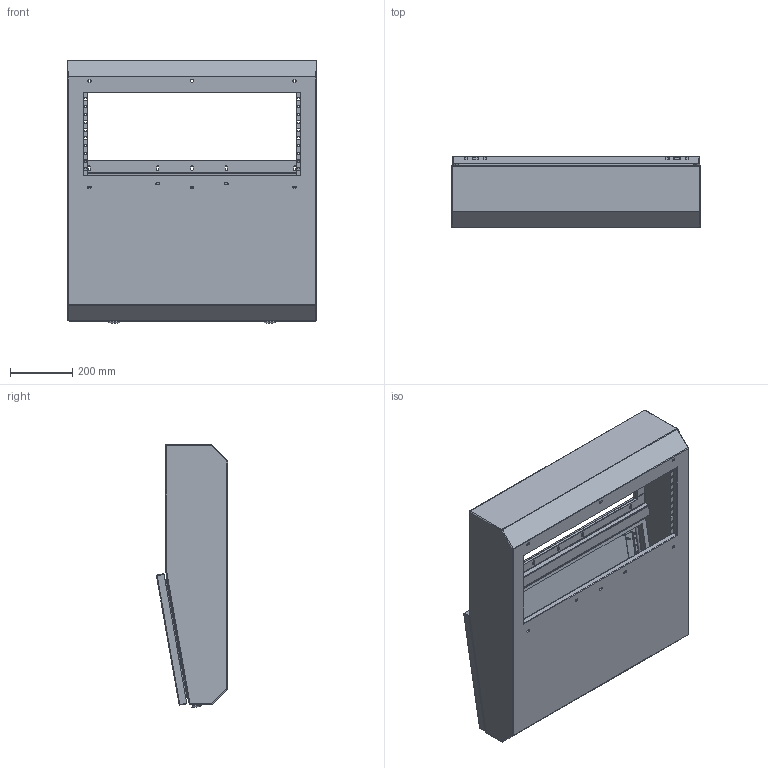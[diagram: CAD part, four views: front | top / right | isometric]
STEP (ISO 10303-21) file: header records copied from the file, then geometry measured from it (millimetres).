
FILE_DESCRIPTION (( 'STEP AP203' ), '1' );
FILE_NAME ('LE802.STEP', '2025-01-21T10:56:42', ( '' ), ( '' ), 'SwSTEP 2.0', 'SolidWorks 2022', '' );
FILE_SCHEMA (( 'CONFIG_CONTROL_DESIGN' ));
Length unit declared in the file: millimetre
Products named in the file (4): AR_LE_pannello_frontale_0800; AR_LE_-prof.400-500_0800-P400; LE802; AR_ST_chiusura_std_WE250
Assembly tree (4 placements, depth 2):
  LE802
    AR_LE_-prof.400-500_0800-P400
    AR_LE_pannello_frontale_0800
    AR_ST_chiusura_std_WE250  x2
Bounding box: 800 x 228.96 x 843.78 mm (x, y, z)
Volume: 7051738.4 mm3; surface area: 3611044.4 mm2
Topology: 5 solids, 5 shells, 765 faces, 2015 edges, 1298 vertices
Faces by surface type: plane 369, cylinder 344, cone 26, sphere 22, torus 4
Entity records: 23857 total; most frequent: DIRECTION 4180, CARTESIAN_POINT 4011, ORIENTED_EDGE 3926, EDGE_CURVE 1963, AXIS2_PLACEMENT_3D 1468, VERTEX_POINT 1271, VECTOR 1244, LINE 1244
